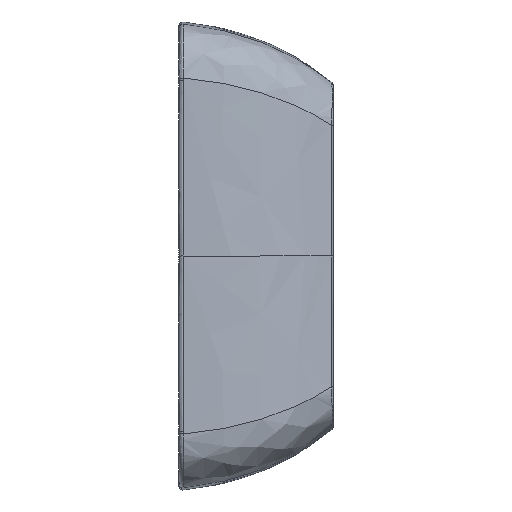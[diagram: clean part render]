
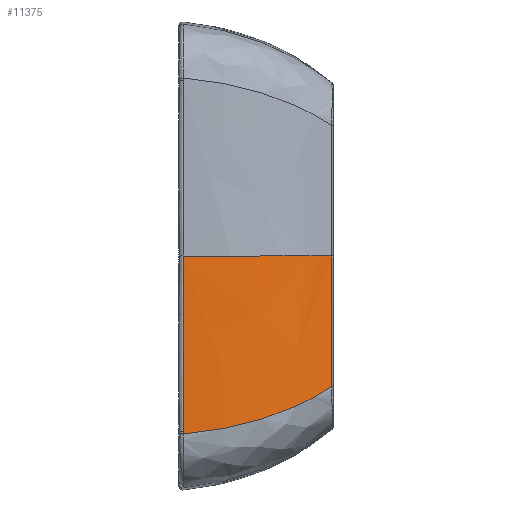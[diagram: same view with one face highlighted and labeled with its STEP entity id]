
A CAD part, left-side view. The second image highlights one B-rep face of the part: STEP entity #11375.
In plain terms, the highlighted free-form (B-spline) face has degree [3, 3] with [5, 6] control points.
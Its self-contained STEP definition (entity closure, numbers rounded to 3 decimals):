
#2731=CARTESIAN_POINT('',(-140.2,-123.91,
-295.955));
#2732=CARTESIAN_POINT('',(-140.363,-123.911,
-285.417));
#2733=CARTESIAN_POINT('',(-140.622,-123.912,
-265.192));
#2734=CARTESIAN_POINT('',(-140.855,-123.913,
-237.421));
#2735=CARTESIAN_POINT('',(-140.973,-123.913,
-212.216));
#2736=CARTESIAN_POINT('',(-140.995,-123.913,
-197.121));
#2737=CARTESIAN_POINT('',(-140.995,-123.913,
-190.));
#2739=CARTESIAN_POINT('',(-187.981,-3.482,
-334.318));
#2740=CARTESIAN_POINT('',(-187.211,-11.444,
-333.664));
#2741=CARTESIAN_POINT('',(-185.023,-26.839,
-331.821));
#2742=CARTESIAN_POINT('',(-179.948,-48.275,
-327.651));
#2743=CARTESIAN_POINT('',(-173.082,-68.516,
-322.109));
#2744=CARTESIAN_POINT('',(-164.343,-87.79,
-315.147));
#2745=CARTESIAN_POINT('',(-153.627,-106.206,
-306.657));
#2746=CARTESIAN_POINT('',(-144.936,-118.105,
-299.746));
#2747=CARTESIAN_POINT('',(-140.2,-123.91,
-295.955));
#2749=CARTESIAN_POINT('',(-187.981,-3.482,
-334.318));
#2750=CARTESIAN_POINT('',(-187.989,-3.476,
-334.013));
#2751=CARTESIAN_POINT('',(-188.005,-3.469,
-333.404));
#2752=CARTESIAN_POINT('',(-188.019,-3.469,
-332.8));
#2753=CARTESIAN_POINT('',(-188.027,-3.469,
-332.499));
#2755=CARTESIAN_POINT('',(-188.027,-3.469,
-332.499));
#2756=CARTESIAN_POINT('',(-188.406,-3.469,
-316.973));
#2757=CARTESIAN_POINT('',(-189.049,-3.469,
-285.46));
#2758=CARTESIAN_POINT('',(-189.633,-3.469,
-237.951));
#2759=CARTESIAN_POINT('',(-189.764,-3.468,
-205.989));
#2760=CARTESIAN_POINT('',(-189.764,-3.468,
-190.));
#2779=CARTESIAN_POINT('',(-189.764,-3.468,
-190.));
#2780=CARTESIAN_POINT('',(-187.541,-25.631,
-190.));
#2781=CARTESIAN_POINT('',(-177.656,-68.419,
-190.));
#2782=CARTESIAN_POINT('',(-155.67,-106.194,
-190.));
#2783=CARTESIAN_POINT('',(-140.995,-123.913,
-190.));
#2785=CARTESIAN_POINT('',(-189.764,-3.468,
-190.));
#3573=CARTESIAN_POINT('',(-140.2,-123.91,
-295.955));
#3585=CARTESIAN_POINT('',(-187.981,-3.482,
-334.318));
#3833=VERTEX_POINT('',#2785);
#3869=VERTEX_POINT('',#3585);
#3871=VERTEX_POINT('',#2753);
#3895=VERTEX_POINT('',#3573);
#3897=VERTEX_POINT('',#2737);
#11333=CARTESIAN_POINT('',(-189.892,-2.159,
-188.557));
#11334=CARTESIAN_POINT('',(-189.896,-2.159,
-205.028));
#11335=CARTESIAN_POINT('',(-189.767,-2.159,
-237.471));
#11336=CARTESIAN_POINT('',(-189.162,-2.159,
-286.55));
#11337=CARTESIAN_POINT('',(-188.487,-2.159,
-319.151));
#11338=CARTESIAN_POINT('',(-188.072,-2.159,
-335.764));
#11339=CARTESIAN_POINT('',(-187.731,-24.802,
-188.557));
#11340=CARTESIAN_POINT('',(-187.735,-24.802,
-205.023));
#11341=CARTESIAN_POINT('',(-187.609,-24.802,
-237.453));
#11342=CARTESIAN_POINT('',(-187.021,-24.804,
-286.515));
#11343=CARTESIAN_POINT('',(-186.36,-24.805,
-319.104));
#11344=CARTESIAN_POINT('',(-185.951,-24.806,
-335.711));
#11345=CARTESIAN_POINT('',(-177.774,-68.469,
-188.56));
#11346=CARTESIAN_POINT('',(-177.777,-68.469,
-204.997));
#11347=CARTESIAN_POINT('',(-177.659,-68.471,
-237.372));
#11348=CARTESIAN_POINT('',(-177.103,-68.479,
-286.35));
#11349=CARTESIAN_POINT('',(-176.469,-68.487,
-318.884));
#11350=CARTESIAN_POINT('',(-176.072,-68.49,
-335.464));
#11351=CARTESIAN_POINT('',(-155.242,-106.927,
-188.565));
#11352=CARTESIAN_POINT('',(-155.244,-106.926,
-204.939));
#11353=CARTESIAN_POINT('',(-155.133,-106.932,
-237.188));
#11354=CARTESIAN_POINT('',(-154.606,-106.956,
-285.977));
#11355=CARTESIAN_POINT('',(-153.997,-106.977,
-318.386));
#11356=CARTESIAN_POINT('',(-153.612,-106.986,
-334.902));
#11357=CARTESIAN_POINT('',(-140.15,-124.928,
-188.569));
#11358=CARTESIAN_POINT('',(-140.152,-124.927,
-204.9));
#11359=CARTESIAN_POINT('',(-140.044,-124.935,
-237.065));
#11360=CARTESIAN_POINT('',(-139.531,-124.971,
-285.727));
#11361=CARTESIAN_POINT('',(-138.935,-125.,
-318.052));
#11362=CARTESIAN_POINT('',(-138.556,-125.014,
-334.525));
#11363=B_SPLINE_SURFACE_WITH_KNOTS('',3,3,((#11333,#11334,#11335,#11336,#11337,
#11338),(#11339,#11340,#11341,#11342,#11343,#11344),(#11345,#11346,#11347,
#11348,#11349,#11350),(#11351,#11352,#11353,#11354,#11355,#11356),(#11357,
#11358,#11359,#11360,#11361,#11362)),.UNSPECIFIED.,.F.,.F.,.F.,(4,1,4),(4,1,1,
4),(0.015,0.5,0.999),(-0.01,
0.333,0.667,1.013),.UNSPECIFIED.);
#11365=ORIENTED_EDGE('',*,*,#11364,.F.);
#11367=ORIENTED_EDGE('',*,*,#11366,.F.);
#11369=ORIENTED_EDGE('',*,*,#11368,.T.);
#11370=ORIENTED_EDGE('',*,*,#11323,.T.);
#11372=ORIENTED_EDGE('',*,*,#11371,.T.);
#11373=EDGE_LOOP('',(#11365,#11367,#11369,#11370,#11372));
#11374=FACE_OUTER_BOUND('',#11373,.F.);
#11375=ADVANCED_FACE('',(#11374),#11363,.F.);
#2738=B_SPLINE_CURVE_WITH_KNOTS('',3,(#2731,#2732,#2733,#2734,#2735,#2736,
#2737),.UNSPECIFIED.,.F.,.F.,(4,1,1,1,4),(0.,0.25,0.5,0.75,1.),
.UNSPECIFIED.);
#2748=B_SPLINE_CURVE_WITH_KNOTS('',3,(#2739,#2740,#2741,#2742,#2743,#2744,#2745,
#2746,#2747),.UNSPECIFIED.,.F.,.F.,(4,1,1,1,1,1,4),(0.,0.167,
0.333,0.5,0.667,0.833,1.),
.UNSPECIFIED.);
#2754=B_SPLINE_CURVE_WITH_KNOTS('',3,(#2749,#2750,#2751,#2752,#2753),
.UNSPECIFIED.,.F.,.F.,(4,1,4),(0.,0.5,1.),.UNSPECIFIED.);
#2761=B_SPLINE_CURVE_WITH_KNOTS('',3,(#2755,#2756,#2757,#2758,#2759,#2760),
.UNSPECIFIED.,.F.,.F.,(4,1,1,4),(0.,0.327,0.663,1.),
.UNSPECIFIED.);
#2784=B_SPLINE_CURVE_WITH_KNOTS('',3,(#2779,#2780,#2781,#2782,#2783),
.UNSPECIFIED.,.F.,.F.,(4,1,4),(0.,0.492,1.),.UNSPECIFIED.);
#11323=EDGE_CURVE('',#3871,#3833,#2761,.T.);
#11364=EDGE_CURVE('',#3895,#3897,#2738,.T.);
#11366=EDGE_CURVE('',#3869,#3895,#2748,.T.);
#11368=EDGE_CURVE('',#3869,#3871,#2754,.T.);
#11371=EDGE_CURVE('',#3833,#3897,#2784,.T.);
